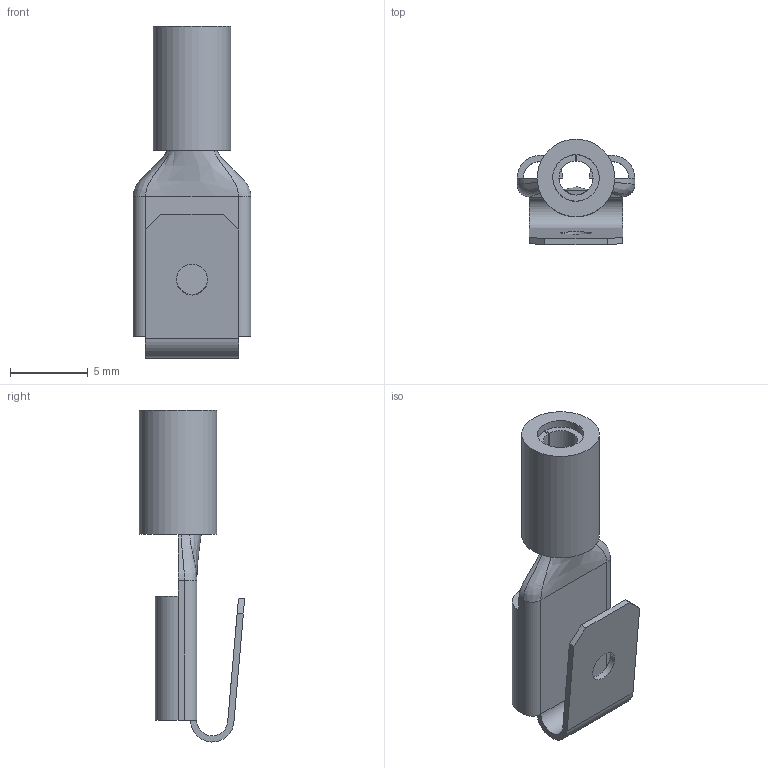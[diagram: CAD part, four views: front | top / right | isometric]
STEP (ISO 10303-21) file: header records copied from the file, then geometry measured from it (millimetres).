
FILE_DESCRIPTION((''),'2;1');
FILE_NAME('Q:\999\Prinzipteile\Elektro\Abzweig-Flachsteckhuelse.stp','2011-05-05T17:50:18',('Roland'),(''),'Autodesk Inventor 2010','Autodesk Inventor 2010','');
FILE_SCHEMA(('AUTOMOTIVE_DESIGN { 1 0 10303 214 1 1 1 1 }'));
Length unit declared in the file: millimetre
Products named in the file (1): Abzweig-Flachsteckhuelse
Bounding box: 7.6 x 6.79 x 21.4 mm (x, y, z)
Volume: 215.3 mm3; surface area: 709.4 mm2
Topology: 1 solids, 1 shells, 55 faces, 144 edges, 91 vertices
Faces by surface type: plane 28, cylinder 15, bspline 11, cone 1
Full cylindrical faces by diameter (mm): 3 x1, 5 x1
Entity records: 2118 total; most frequent: CARTESIAN_POINT 807, ORIENTED_EDGE 272, DIRECTION 246, EDGE_CURVE 136, VERTEX_POINT 88, AXIS2_PLACEMENT_3D 86, VECTOR 74, LINE 74
